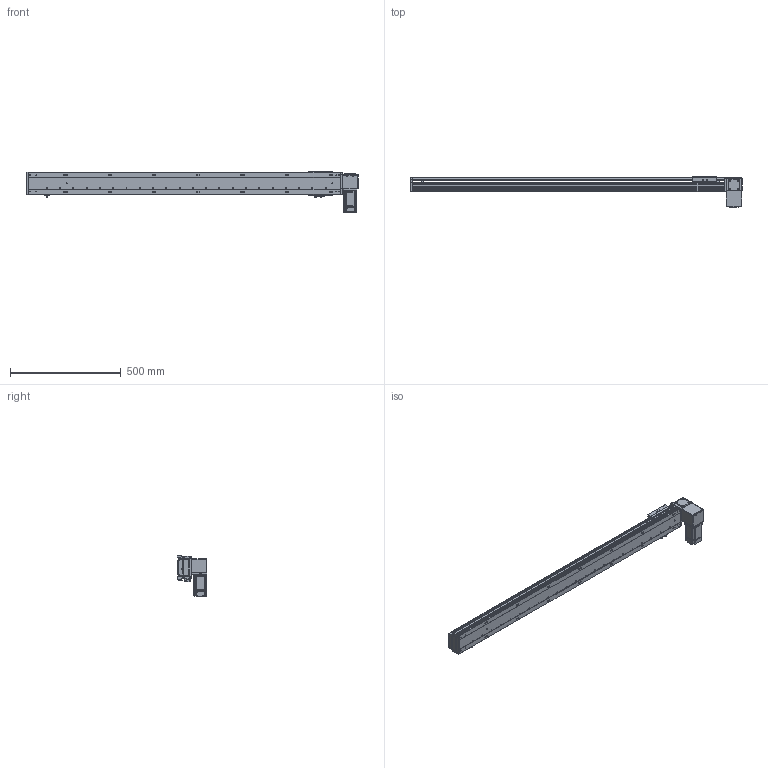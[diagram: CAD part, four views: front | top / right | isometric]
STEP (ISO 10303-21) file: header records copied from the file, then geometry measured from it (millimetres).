
FILE_DESCRIPTION (( 'STEP AP203' ), '1' );
FILE_NAME ('RY100-T-300-DL.SLDASM_1200.step', '2024-04-24T01:11:46', ( '盈信电脑' ), ( '东莞市道滘镇水果街19号' ), 'SwSTEP 2.0', 'SolidWorks 2016', '' );
FILE_SCHEMA (( 'CONFIG_CONTROL_DESIGN' ));
Length unit declared in the file: millimetre
Products named in the file (16): 滅袉蝶18-10; RY80-T肮祭謫狟殏俋欶; RY100-T翋肮祭謫粣; 1; RY100-T-300-DL.SLDASM_1200; RY100-T翋肮祭謫裔啣; RY100-T左右折电机安装板; RY100-T粣創揤踡裔; RY100-T翋肮祭謫裔啣2; RY100俋离覜茼え; RY100-T肮祭謫臏賑輸; 覜茼ん672; RY100-T肮祭謫翋盓傅釱; RY100-T-300-RK倰第菁釱_1200; RY100-T-300-RK倰第奻裔_1200; RY100綴裔啣
Assembly tree (18 placements, depth 2):
  RY100-T-300-DL.SLDASM_1200
    RY100-T-300-RK倰第菁釱_1200
    RY100-T-300-RK倰第奻裔_1200
    RY100-T肮祭謫臏賑輸
    RY100綴裔啣
    覜茼ん672  x3
    RY100俋离覜茼え
    RY100-T翋肮祭謫粣
    RY100-T肮祭謫翋盓傅釱
    滅袉蝶18-10  x2
    RY100-T翋肮祭謫裔啣
    1
    RY100-T左右折电机安装板
    RY100-T粣創揤踡裔
    RY100-T翋肮祭謫裔啣2
    RY80-T肮祭謫狟殏俋欶
Bounding box: 1500 x 135.5 x 182.5 mm (x, y, z)
Volume: 2963415.6 mm3; surface area: 1226815.5 mm2
Topology: 18 solids, 18 shells, 2233 faces, 6185 edges, 4015 vertices
Faces by surface type: plane 1211, cylinder 805, cone 139, bspline 78
Entity records: 71838 total; most frequent: CARTESIAN_POINT 17216, ORIENTED_EDGE 11202, DIRECTION 10713, EDGE_CURVE 5601, VERTEX_POINT 3683, VECTOR 3619, LINE 3619, AXIS2_PLACEMENT_3D 3547
